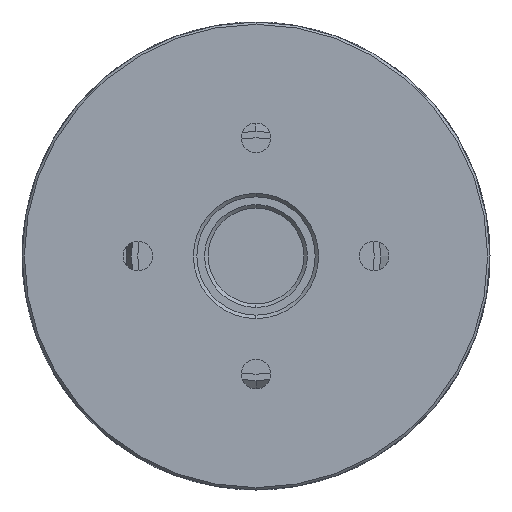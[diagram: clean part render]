
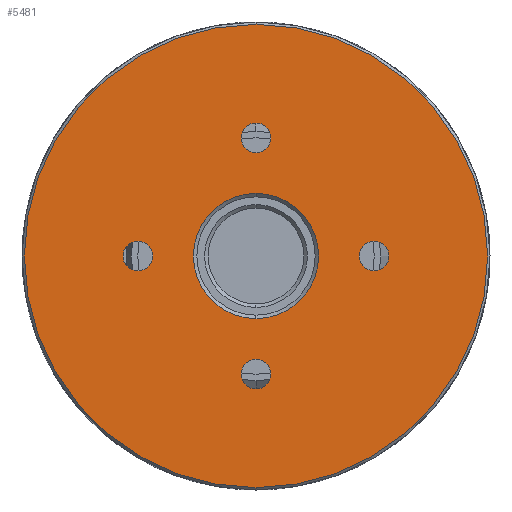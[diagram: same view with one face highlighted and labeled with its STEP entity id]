
A CAD part, left-side view. The second image highlights one B-rep face of the part: STEP entity #5481.
In plain terms, the highlighted planar face has unit normal (-1, 0, 0).
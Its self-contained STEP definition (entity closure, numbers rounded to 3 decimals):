
#79 = DIRECTION ( 'NONE',  ( 0., 0., 1. ) ) ;
#149 = CARTESIAN_POINT ( 'NONE',  ( 0., 10., 0. ) ) ;
#299 = CARTESIAN_POINT ( 'NONE',  ( 0., 0., -19.6 ) ) ;
#344 = DIRECTION ( 'NONE',  ( -1., 0., 0. ) ) ;
#350 = CARTESIAN_POINT ( 'NONE',  ( 0., -10., 1.25 ) ) ;
#400 = CIRCLE ( 'NONE', #5234, 19.6 ) ;
#447 = AXIS2_PLACEMENT_3D ( 'NONE', #3369, #8907, #581 ) ;
#454 = EDGE_CURVE ( 'NONE', #4825, #3205, #8632, .T. ) ;
#463 = AXIS2_PLACEMENT_3D ( 'NONE', #723, #2788, #79 ) ;
#547 = FACE_BOUND ( 'NONE', #4070, .T. ) ;
#557 = EDGE_LOOP ( 'NONE', ( #1229, #6156 ) ) ;
#581 = DIRECTION ( 'NONE',  ( 0., 0., 1. ) ) ;
#583 = DIRECTION ( 'NONE',  ( 1., 0., 0. ) ) ;
#590 = FACE_BOUND ( 'NONE', #557, .T. ) ;
#593 = DIRECTION ( 'NONE',  ( -1., 0., 0. ) ) ;
#597 = AXIS2_PLACEMENT_3D ( 'NONE', #7148, #6457, #5730 ) ;
#723 = CARTESIAN_POINT ( 'NONE',  ( 0., 0., 10. ) ) ;
#778 = CIRCLE ( 'NONE', #4288, 5.3 ) ;
#840 = CIRCLE ( 'NONE', #8295, 1.25 ) ;
#899 = CIRCLE ( 'NONE', #463, 1.25 ) ;
#1003 = DIRECTION ( 'NONE',  ( 0., 0., 1. ) ) ;
#1092 = AXIS2_PLACEMENT_3D ( 'NONE', #149, #5650, #2954 ) ;
#1157 = CARTESIAN_POINT ( 'NONE',  ( 0., 10., 1.25 ) ) ;
#1229 = ORIENTED_EDGE ( 'NONE', *, *, #6387, .F. ) ;
#1513 = EDGE_CURVE ( 'NONE', #3205, #4825, #3372, .T. ) ;
#1549 = CARTESIAN_POINT ( 'NONE',  ( 0., -10., -1.25 ) ) ;
#1562 = AXIS2_PLACEMENT_3D ( 'NONE', #7654, #2808, #2632 ) ;
#1797 = FACE_BOUND ( 'NONE', #6927, .T. ) ;
#1812 = VERTEX_POINT ( 'NONE', #1549 ) ;
#1902 = ORIENTED_EDGE ( 'NONE', *, *, #8087, .F. ) ;
#1938 = AXIS2_PLACEMENT_3D ( 'NONE', #6852, #583, #3883 ) ;
#2005 = DIRECTION ( 'NONE',  ( -1., 0., 0. ) ) ;
#2057 = ORIENTED_EDGE ( 'NONE', *, *, #2189, .F. ) ;
#2189 = EDGE_CURVE ( 'NONE', #3171, #6178, #7910, .T. ) ;
#2225 = DIRECTION ( 'NONE',  ( -1., 0., 0. ) ) ;
#2315 = CARTESIAN_POINT ( 'NONE',  ( 0., -10., 0. ) ) ;
#2632 = DIRECTION ( 'NONE',  ( 0., 0., 1. ) ) ;
#2714 = CIRCLE ( 'NONE', #8994, 1.25 ) ;
#2739 = AXIS2_PLACEMENT_3D ( 'NONE', #6858, #6766, #4754 ) ;
#2747 = DIRECTION ( 'NONE',  ( 0., 0., 1. ) ) ;
#2788 = DIRECTION ( 'NONE',  ( -1., 0., 0. ) ) ;
#2805 = VERTEX_POINT ( 'NONE', #5178 ) ;
#2808 = DIRECTION ( 'NONE',  ( -1., 0., 0. ) ) ;
#2876 = AXIS2_PLACEMENT_3D ( 'NONE', #5249, #344, #3827 ) ;
#2930 = EDGE_CURVE ( 'NONE', #8639, #4472, #778, .T. ) ;
#2954 = DIRECTION ( 'NONE',  ( 0., 0., 1. ) ) ;
#3171 = VERTEX_POINT ( 'NONE', #3405 ) ;
#3205 = VERTEX_POINT ( 'NONE', #6164 ) ;
#3335 = FACE_BOUND ( 'NONE', #7668, .T. ) ;
#3352 = EDGE_CURVE ( 'NONE', #6153, #5101, #6635, .T. ) ;
#3369 = CARTESIAN_POINT ( 'NONE',  ( 0., 0., -10. ) ) ;
#3372 = CIRCLE ( 'NONE', #597, 1.25 ) ;
#3405 = CARTESIAN_POINT ( 'NONE',  ( 0., 0., 19.6 ) ) ;
#3468 = DIRECTION ( 'NONE',  ( -1., 0., 0. ) ) ;
#3586 = VERTEX_POINT ( 'NONE', #9022 ) ;
#3591 = CARTESIAN_POINT ( 'NONE',  ( 0., 10., -1.25 ) ) ;
#3711 = ORIENTED_EDGE ( 'NONE', *, *, #2930, .F. ) ;
#3729 = CARTESIAN_POINT ( 'NONE',  ( 0., 0., 5.3 ) ) ;
#3827 = DIRECTION ( 'NONE',  ( 0., 0., 1. ) ) ;
#3883 = DIRECTION ( 'NONE',  ( 0., 0., -1. ) ) ;
#4040 = ORIENTED_EDGE ( 'NONE', *, *, #454, .F. ) ;
#4064 = FACE_BOUND ( 'NONE', #7640, .T. ) ;
#4070 = EDGE_LOOP ( 'NONE', ( #3711, #6553 ) ) ;
#4184 = VERTEX_POINT ( 'NONE', #350 ) ;
#4288 = AXIS2_PLACEMENT_3D ( 'NONE', #4805, #593, #2747 ) ;
#4472 = VERTEX_POINT ( 'NONE', #5195 ) ;
#4669 = CARTESIAN_POINT ( 'NONE',  ( 0., 0., 0. ) ) ;
#4754 = DIRECTION ( 'NONE',  ( 0., 0., -1. ) ) ;
#4805 = CARTESIAN_POINT ( 'NONE',  ( 0., 0., 0. ) ) ;
#4825 = VERTEX_POINT ( 'NONE', #5892 ) ;
#5101 = VERTEX_POINT ( 'NONE', #1157 ) ;
#5178 = CARTESIAN_POINT ( 'NONE',  ( 0., 0., 8.75 ) ) ;
#5195 = CARTESIAN_POINT ( 'NONE',  ( 0., 0., -5.3 ) ) ;
#5234 = AXIS2_PLACEMENT_3D ( 'NONE', #4669, #8917, #8875 ) ;
#5249 = CARTESIAN_POINT ( 'NONE',  ( 0., 0., 0. ) ) ;
#5407 = ORIENTED_EDGE ( 'NONE', *, *, #1513, .F. ) ;
#5441 = EDGE_CURVE ( 'NONE', #6178, #3171, #400, .T. ) ;
#5456 = ORIENTED_EDGE ( 'NONE', *, *, #5652, .F. ) ;
#5481 = ADVANCED_FACE ( 'NONE', ( #547, #1797, #4064, #3335, #590, #7415 ), #6717, .F. ) ;
#5650 = DIRECTION ( 'NONE',  ( -1., 0., 0. ) ) ;
#5652 = EDGE_CURVE ( 'NONE', #3586, #2805, #840, .T. ) ;
#5730 = DIRECTION ( 'NONE',  ( 0., 0., 1. ) ) ;
#5892 = CARTESIAN_POINT ( 'NONE',  ( 0., 0., -11.25 ) ) ;
#5953 = CIRCLE ( 'NONE', #2876, 5.3 ) ;
#6153 = VERTEX_POINT ( 'NONE', #3591 ) ;
#6156 = ORIENTED_EDGE ( 'NONE', *, *, #3352, .F. ) ;
#6164 = CARTESIAN_POINT ( 'NONE',  ( 0., 0., -8.75 ) ) ;
#6178 = VERTEX_POINT ( 'NONE', #299 ) ;
#6258 = EDGE_CURVE ( 'NONE', #4472, #8639, #5953, .T. ) ;
#6341 = ORIENTED_EDGE ( 'NONE', *, *, #6645, .F. ) ;
#6354 = CARTESIAN_POINT ( 'NONE',  ( 0., 0., 10. ) ) ;
#6387 = EDGE_CURVE ( 'NONE', #5101, #6153, #7114, .T. ) ;
#6457 = DIRECTION ( 'NONE',  ( -1., 0., 0. ) ) ;
#6553 = ORIENTED_EDGE ( 'NONE', *, *, #6258, .F. ) ;
#6563 = EDGE_CURVE ( 'NONE', #1812, #4184, #2714, .T. ) ;
#6635 = CIRCLE ( 'NONE', #1092, 1.25 ) ;
#6645 = EDGE_CURVE ( 'NONE', #4184, #1812, #7682, .T. ) ;
#6717 = PLANE ( 'NONE',  #2739 ) ;
#6766 = DIRECTION ( 'NONE',  ( 1., 0., 0. ) ) ;
#6852 = CARTESIAN_POINT ( 'NONE',  ( 0., 0., 0. ) ) ;
#6858 = CARTESIAN_POINT ( 'NONE',  ( 0., 19.8, 0. ) ) ;
#6927 = EDGE_LOOP ( 'NONE', ( #5456, #1902 ) ) ;
#7059 = ORIENTED_EDGE ( 'NONE', *, *, #5441, .F. ) ;
#7114 = CIRCLE ( 'NONE', #1562, 1.25 ) ;
#7148 = CARTESIAN_POINT ( 'NONE',  ( 0., 0., -10. ) ) ;
#7415 = FACE_OUTER_BOUND ( 'NONE', #8162, .T. ) ;
#7640 = EDGE_LOOP ( 'NONE', ( #6341, #8965 ) ) ;
#7654 = CARTESIAN_POINT ( 'NONE',  ( 0., 10., 0. ) ) ;
#7668 = EDGE_LOOP ( 'NONE', ( #5407, #4040 ) ) ;
#7682 = CIRCLE ( 'NONE', #8584, 1.25 ) ;
#7712 = DIRECTION ( 'NONE',  ( 0., 0., 1. ) ) ;
#7788 = DIRECTION ( 'NONE',  ( 0., 0., 1. ) ) ;
#7910 = CIRCLE ( 'NONE', #1938, 19.6 ) ;
#8087 = EDGE_CURVE ( 'NONE', #2805, #3586, #899, .T. ) ;
#8162 = EDGE_LOOP ( 'NONE', ( #7059, #2057 ) ) ;
#8295 = AXIS2_PLACEMENT_3D ( 'NONE', #6354, #3468, #1003 ) ;
#8584 = AXIS2_PLACEMENT_3D ( 'NONE', #8666, #2005, #7712 ) ;
#8632 = CIRCLE ( 'NONE', #447, 1.25 ) ;
#8639 = VERTEX_POINT ( 'NONE', #3729 ) ;
#8666 = CARTESIAN_POINT ( 'NONE',  ( 0., -10., 0. ) ) ;
#8875 = DIRECTION ( 'NONE',  ( 0., 0., -1. ) ) ;
#8907 = DIRECTION ( 'NONE',  ( -1., 0., 0. ) ) ;
#8917 = DIRECTION ( 'NONE',  ( 1., 0., 0. ) ) ;
#8965 = ORIENTED_EDGE ( 'NONE', *, *, #6563, .F. ) ;
#8994 = AXIS2_PLACEMENT_3D ( 'NONE', #2315, #2225, #7788 ) ;
#9022 = CARTESIAN_POINT ( 'NONE',  ( 0., 0., 11.25 ) ) ;
